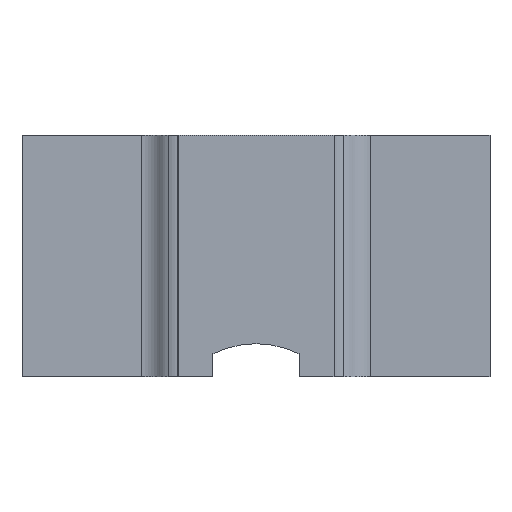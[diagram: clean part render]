
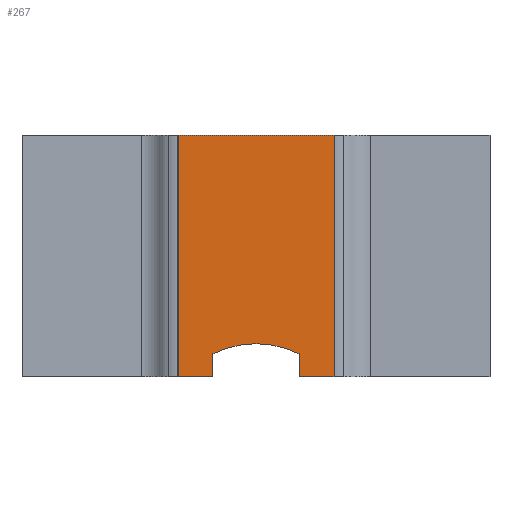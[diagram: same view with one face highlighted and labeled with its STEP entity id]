
A CAD part, top view. The second image highlights one B-rep face of the part: STEP entity #267.
In plain terms, the highlighted planar face has unit normal (0, 0, 1).
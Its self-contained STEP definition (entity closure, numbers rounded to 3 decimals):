
#3 = EDGE_CURVE ( 'NONE', #387, #315, #1243, .T. ) ;
#21 = DIRECTION ( 'NONE',  ( 0., 0., 1. ) ) ;
#43 = VECTOR ( 'NONE', #1179, 1000. ) ;
#61 = CARTESIAN_POINT ( 'NONE',  ( -1.38, 0., 0.894 ) ) ;
#124 = EDGE_CURVE ( 'NONE', #978, #405, #914, .T. ) ;
#126 = CARTESIAN_POINT ( 'NONE',  ( -1.38, 0.74, 0.894 ) ) ;
#144 = DIRECTION ( 'NONE',  ( 0., 0., 1. ) ) ;
#171 = CARTESIAN_POINT ( 'NONE',  ( -2.5, 7.75, 0.894 ) ) ;
#175 = LINE ( 'NONE', #171, #1124 ) ;
#195 = CARTESIAN_POINT ( 'NONE',  ( 1.25, 0., 0.894 ) ) ;
#210 = EDGE_CURVE ( 'NONE', #287, #978, #1291, .T. ) ;
#226 = AXIS2_PLACEMENT_3D ( 'NONE', #1083, #144, #1089 ) ;
#233 = DIRECTION ( 'NONE',  ( 0., -1., 0. ) ) ;
#261 = FACE_OUTER_BOUND ( 'NONE', #1199, .T. ) ;
#267 = ADVANCED_FACE ( 'NONE', ( #261 ), #663, .T. ) ;
#268 = ORIENTED_EDGE ( 'NONE', *, *, #330, .F. ) ;
#269 = CARTESIAN_POINT ( 'NONE',  ( 1.25, 0., 0.894 ) ) ;
#287 = VERTEX_POINT ( 'NONE', #1207 ) ;
#315 = VERTEX_POINT ( 'NONE', #1295 ) ;
#321 = LINE ( 'NONE', #269, #491 ) ;
#329 = DIRECTION ( 'NONE',  ( 0., 1., 0. ) ) ;
#330 = EDGE_CURVE ( 'NONE', #546, #287, #321, .T. ) ;
#343 = DIRECTION ( 'NONE',  ( -1., 0., 0. ) ) ;
#387 = VERTEX_POINT ( 'NONE', #61 ) ;
#388 = DIRECTION ( 'NONE',  ( 1., 0., 0. ) ) ;
#405 = VERTEX_POINT ( 'NONE', #785 ) ;
#456 = EDGE_CURVE ( 'NONE', #817, #575, #1040, .T. ) ;
#468 = EDGE_CURVE ( 'NONE', #817, #315, #175, .T. ) ;
#491 = VECTOR ( 'NONE', #1195, 1000. ) ;
#516 = AXIS2_PLACEMENT_3D ( 'NONE', #1286, #21, #343 ) ;
#525 = ORIENTED_EDGE ( 'NONE', *, *, #468, .T. ) ;
#546 = VERTEX_POINT ( 'NONE', #919 ) ;
#547 = CARTESIAN_POINT ( 'NONE',  ( 2.5, 7.75, 0.894 ) ) ;
#575 = VERTEX_POINT ( 'NONE', #1130 ) ;
#602 = VECTOR ( 'NONE', #233, 1000. ) ;
#653 = ORIENTED_EDGE ( 'NONE', *, *, #3, .F. ) ;
#663 = PLANE ( 'NONE',  #226 ) ;
#679 = CARTESIAN_POINT ( 'NONE',  ( -2.5, 7.75, 0.894 ) ) ;
#680 = VECTOR ( 'NONE', #702, 1000. ) ;
#702 = DIRECTION ( 'NONE',  ( -1., 0., 0. ) ) ;
#785 = CARTESIAN_POINT ( 'NONE',  ( -1.38, 0.74, 0.894 ) ) ;
#791 = CARTESIAN_POINT ( 'NONE',  ( -2.5, 7.75, 0.894 ) ) ;
#814 = CARTESIAN_POINT ( 'NONE',  ( 1.38, 0.74, 0.894 ) ) ;
#815 = ORIENTED_EDGE ( 'NONE', *, *, #456, .F. ) ;
#817 = VERTEX_POINT ( 'NONE', #679 ) ;
#848 = CARTESIAN_POINT ( 'NONE',  ( 1.38, 0., 0.894 ) ) ;
#855 = VECTOR ( 'NONE', #388, 1000. ) ;
#896 = ORIENTED_EDGE ( 'NONE', *, *, #124, .F. ) ;
#914 = CIRCLE ( 'NONE', #516, 3.11 ) ;
#919 = CARTESIAN_POINT ( 'NONE',  ( 2.5, 0., 0.894 ) ) ;
#978 = VERTEX_POINT ( 'NONE', #814 ) ;
#1040 = LINE ( 'NONE', #791, #855 ) ;
#1083 = CARTESIAN_POINT ( 'NONE',  ( 2.5, 7.75, 0.894 ) ) ;
#1084 = ORIENTED_EDGE ( 'NONE', *, *, #1274, .F. ) ;
#1089 = DIRECTION ( 'NONE',  ( 1., 0., 0. ) ) ;
#1110 = VECTOR ( 'NONE', #329, 1000. ) ;
#1124 = VECTOR ( 'NONE', #1212, 1000. ) ;
#1130 = CARTESIAN_POINT ( 'NONE',  ( 2.5, 7.75, 0.894 ) ) ;
#1179 = DIRECTION ( 'NONE',  ( 0., -1., 0. ) ) ;
#1187 = LINE ( 'NONE', #126, #602 ) ;
#1195 = DIRECTION ( 'NONE',  ( -1., 0., 0. ) ) ;
#1199 = EDGE_LOOP ( 'NONE', ( #1317, #268, #1084, #815, #525, #653, #1215, #896 ) ) ;
#1207 = CARTESIAN_POINT ( 'NONE',  ( 1.38, 0., 0.894 ) ) ;
#1212 = DIRECTION ( 'NONE',  ( 0., -1., 0. ) ) ;
#1215 = ORIENTED_EDGE ( 'NONE', *, *, #1228, .F. ) ;
#1228 = EDGE_CURVE ( 'NONE', #405, #387, #1187, .T. ) ;
#1243 = LINE ( 'NONE', #195, #680 ) ;
#1274 = EDGE_CURVE ( 'NONE', #575, #546, #1338, .T. ) ;
#1286 = CARTESIAN_POINT ( 'NONE',  ( 0., -2.048, 0.894 ) ) ;
#1291 = LINE ( 'NONE', #848, #1110 ) ;
#1295 = CARTESIAN_POINT ( 'NONE',  ( -2.5, 0., 0.894 ) ) ;
#1317 = ORIENTED_EDGE ( 'NONE', *, *, #210, .F. ) ;
#1338 = LINE ( 'NONE', #547, #43 ) ;
